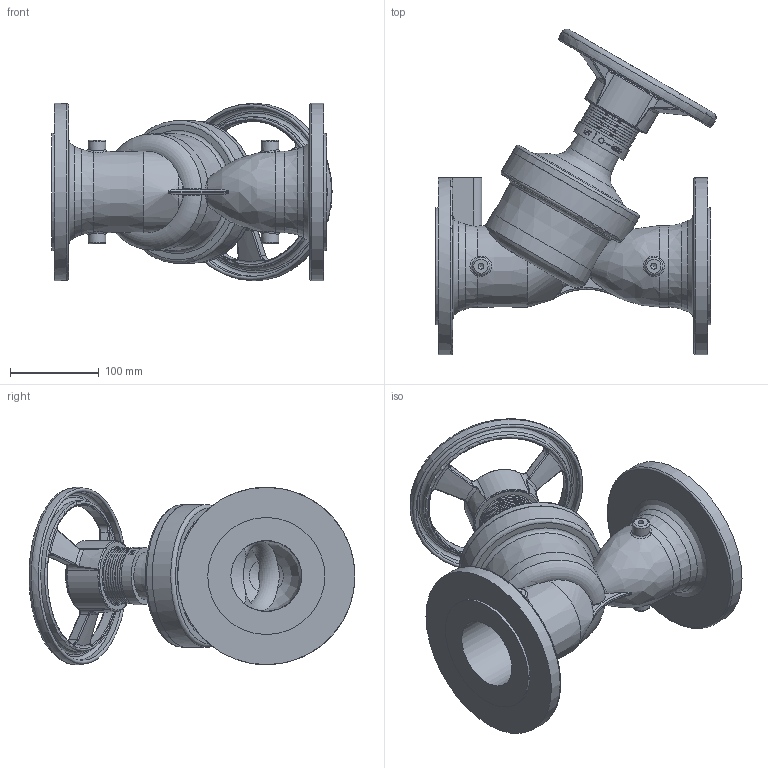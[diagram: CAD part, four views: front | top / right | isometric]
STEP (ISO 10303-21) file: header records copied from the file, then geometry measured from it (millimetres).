
FILE_DESCRIPTION((''),'2;1');
FILE_NAME('P:\Fastrack\53972_CRANE 3D\DM921-941\WORKSPACE\IAM\NEW\DM921_DN80.stp','2011-02-25T10:37:26',('btaylor'),(''),'Autodesk Inventor 2008','Autodesk Inventor 2008','');
FILE_SCHEMA(('AUTOMOTIVE_DESIGN { 1 0 10303 214 1 1 1 1 }'));
Length unit declared in the file: millimetre
Products named in the file (1): DM921_DN80
Bounding box: 316.32 x 367.57 x 200.19 mm (x, y, z)
Volume: 922087.2 mm3; surface area: 512506.4 mm2
Topology: 3 solids, 4 shells, 825 faces, 2109 edges, 1346 vertices
Faces by surface type: plane 299, bspline 285, cylinder 130, cone 76, torus 35
Full cylindrical faces by diameter (mm): 6 x2, 8 x8, 9.5 x6, 17.3 x1, 20 x4, 24 x1, 53 x1, 55.7 x1, 58 x1, 62 x4, 65 x1, 108 x1, 113 x1, 125 x1, 132 x2
Entity records: 73816 total; most frequent: CARTESIAN_POINT 55752, ORIENTED_EDGE 3858, DIRECTION 2768, EDGE_CURVE 1929, VERTEX_POINT 1287, AXIS2_PLACEMENT_3D 1026, EDGE_LOOP 1020, STYLED_ITEM 826
